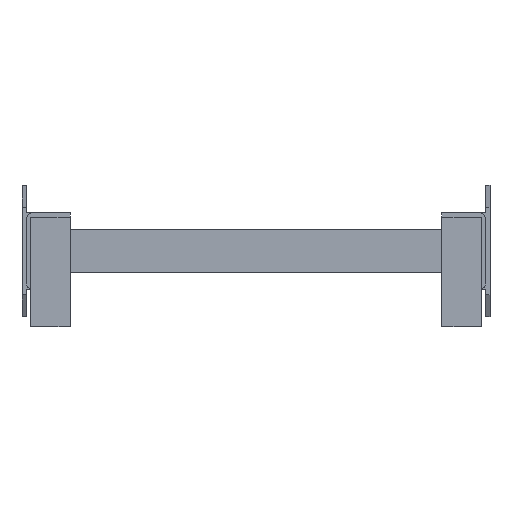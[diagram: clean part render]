
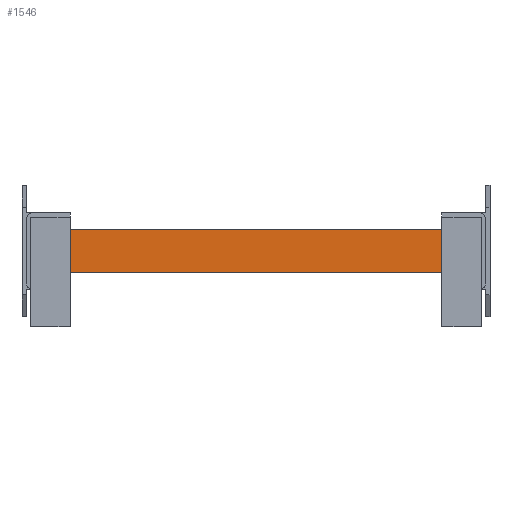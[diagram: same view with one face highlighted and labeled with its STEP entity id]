
A CAD part, front view. The second image highlights one B-rep face of the part: STEP entity #1546.
In plain terms, the highlighted planar face has unit normal (0, -1, 0).
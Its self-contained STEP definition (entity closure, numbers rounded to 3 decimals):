
#783=CARTESIAN_POINT('',(-202.0,-500.0,20.));
#784=VERTEX_POINT('',#783);
#817=CARTESIAN_POINT('',(-202.0,-500.0,-20.));
#818=VERTEX_POINT('',#817);
#825=CARTESIAN_POINT('',(-202.0,-500.0,20.));
#826=DIRECTION('',(0.0,0.0,-1.0));
#827=VECTOR('',#826,40.);
#828=LINE('',#825,#827);
#829=EDGE_CURVE('',#784,#818,#828,.T.);
#1059=CARTESIAN_POINT('',(202.0,-500.0,20.));
#1060=VERTEX_POINT('',#1059);
#1061=CARTESIAN_POINT('',(202.0,-500.0,20.));
#1062=DIRECTION('',(-1.0,0.0,0.0));
#1063=VECTOR('',#1062,404.0);
#1064=LINE('',#1061,#1063);
#1065=EDGE_CURVE('',#1060,#784,#1064,.T.);
#1343=CARTESIAN_POINT('',(202.0,-500.0,-20.));
#1344=VERTEX_POINT('',#1343);
#1351=CARTESIAN_POINT('',(202.0,-500.0,-20.));
#1352=DIRECTION('',(-1.0,0.0,0.0));
#1353=VECTOR('',#1352,404.0);
#1354=LINE('',#1351,#1353);
#1355=EDGE_CURVE('',#1344,#818,#1354,.T.);
#1530=CARTESIAN_POINT('',(202.0,-500.0,-20.));
#1531=DIRECTION('',(0.0,-1.0,0.0));
#1532=DIRECTION('',(0.0,0.0,1.0));
#1533=AXIS2_PLACEMENT_3D('',#1530,#1531,#1532);
#1534=PLANE('',#1533);
#1535=ORIENTED_EDGE('',*,*,#1355,.F.);
#1536=CARTESIAN_POINT('',(202.0,-500.0,20.));
#1537=DIRECTION('',(0.0,0.0,-1.0));
#1538=VECTOR('',#1537,40.);
#1539=LINE('',#1536,#1538);
#1540=EDGE_CURVE('',#1060,#1344,#1539,.T.);
#1541=ORIENTED_EDGE('',*,*,#1540,.F.);
#1542=ORIENTED_EDGE('',*,*,#1065,.T.);
#1543=ORIENTED_EDGE('',*,*,#829,.T.);
#1544=EDGE_LOOP('',(#1535,#1541,#1542,#1543));
#1545=FACE_OUTER_BOUND('',#1544,.T.);
#1546=ADVANCED_FACE('',(#1545),#1534,.T.);
